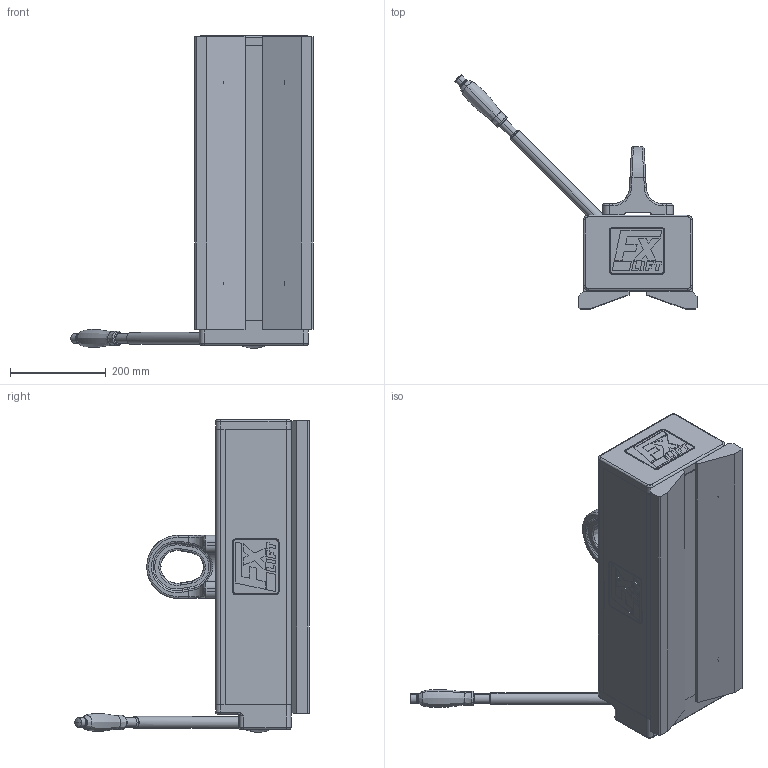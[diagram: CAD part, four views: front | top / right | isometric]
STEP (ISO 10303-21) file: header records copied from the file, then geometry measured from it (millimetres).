
FILE_DESCRIPTION (( 'STEP AP203' ), '1' );
FILE_NAME ('FX R 1800 Vertrieb.STEP', '2016-09-22T06:50:34', ( '' ), ( '' ), 'SwSTEP 2.0', 'SolidWorks 2013', '' );
FILE_SCHEMA (( 'CONFIG_CONTROL_DESIGN' ));
Length unit declared in the file: millimetre
Products named in the file (1): FX R 1800 Vertrieb
Bounding box: 506.92 x 490.58 x 654 mm (x, y, z)
Surface area: 800543.3 mm2 (no closed solid volume)
Topology: 0 solids, 9 shells, 853 faces, 2122 edges, 1331 vertices
Faces by surface type: plane 468, cylinder 153, bspline 143, cone 61, torus 24, sphere 4
Entity records: 38713 total; most frequent: CARTESIAN_POINT 19367, ORIENTED_EDGE 4172, DIRECTION 3606, EDGE_CURVE 2102, VECTOR 1346, LINE 1346, VERTEX_POINT 1331, AXIS2_PLACEMENT_3D 1130
